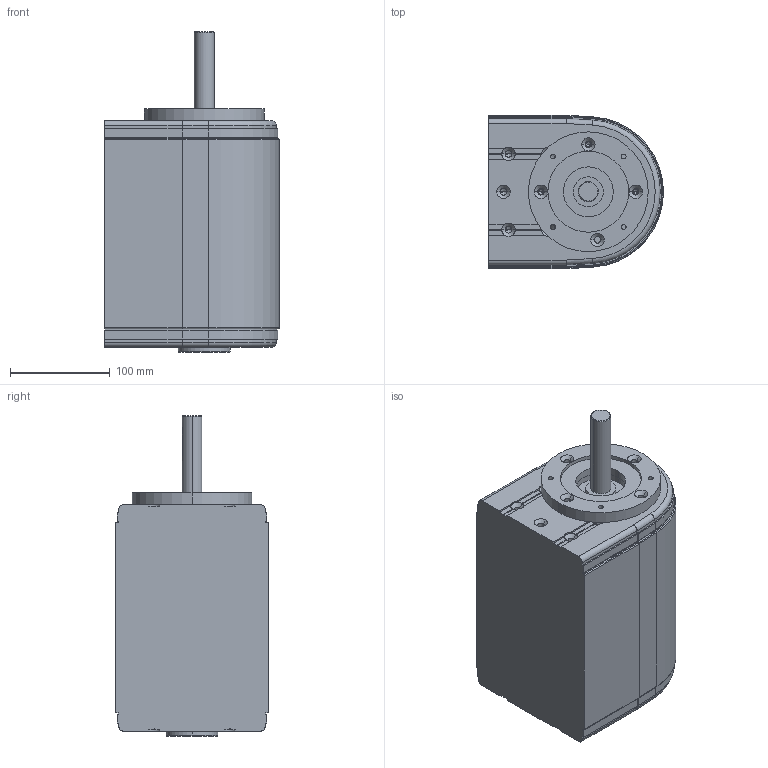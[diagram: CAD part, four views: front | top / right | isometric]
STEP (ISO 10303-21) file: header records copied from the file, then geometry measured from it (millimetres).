
FILE_DESCRIPTION (( 'STEP AP214' ), '1' );
FILE_NAME ('FABER - F2 750 MDD20 GP.STEP', '2017-04-05T12:27:26', ( '' ), ( '' ), 'SwSTEP 2.0', 'SolidWorks 2016', '' );
FILE_SCHEMA (( 'AUTOMOTIVE_DESIGN' ));
Length unit declared in the file: millimetre
Products named in the file (1): FABER - F2 750 MDD20 GP
Bounding box: 175.3 x 153.4 x 321 mm (x, y, z)
Volume: 5565892.5 mm3; surface area: 220751 mm2
Topology: 2 solids, 2 shells, 351 faces, 869 edges, 502 vertices
Faces by surface type: plane 139, cylinder 124, cone 74, torus 14
Entity records: 11595 total; most frequent: CARTESIAN_POINT 1984, DIRECTION 1779, ORIENTED_EDGE 1666, EDGE_CURVE 833, AXIS2_PLACEMENT_3D 675, VERTEX_POINT 502, VECTOR 429, LINE 429
